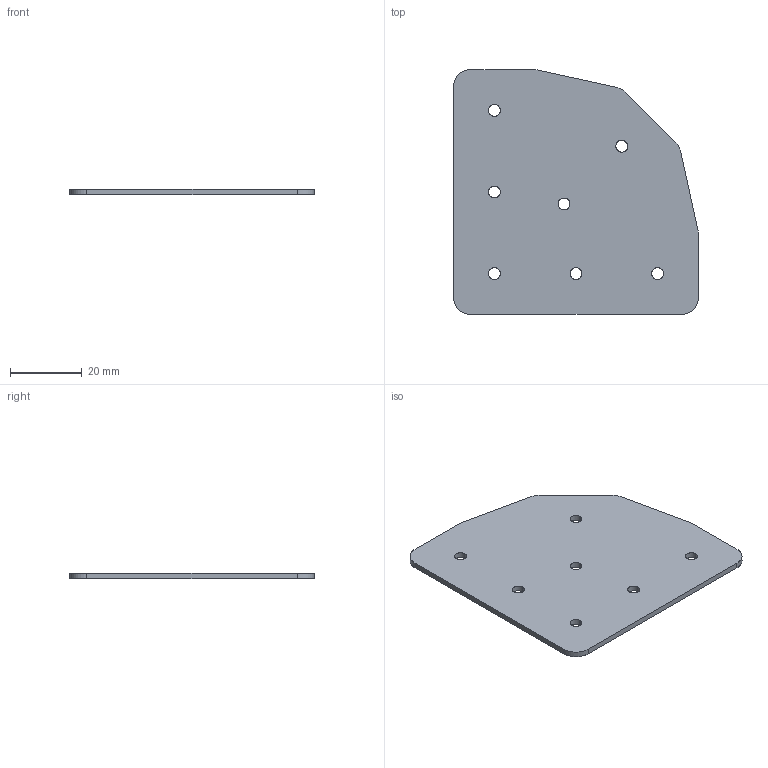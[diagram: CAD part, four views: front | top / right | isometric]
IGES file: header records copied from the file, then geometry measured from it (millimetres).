
Start section: SolidWorks IGES file using analytic representation for surfaces
Global section: file name: C:\Working\Gusset Convert\DRP-002-0004-03.igs; native system: SolidWorks 2010; preprocessor: SolidWorks 2010; author: mbush2; date: 100624.085830; units: inch
Bounding box: 68.2 x 68.2 x 1.59 mm (x, y, z)
Surface area: 8751.5 mm2 (no closed solid volume)
Topology: 0 solids, 0 shells, 30 faces, 642 edges, 642 vertices
Faces by surface type: revolution 21, bspline 9
